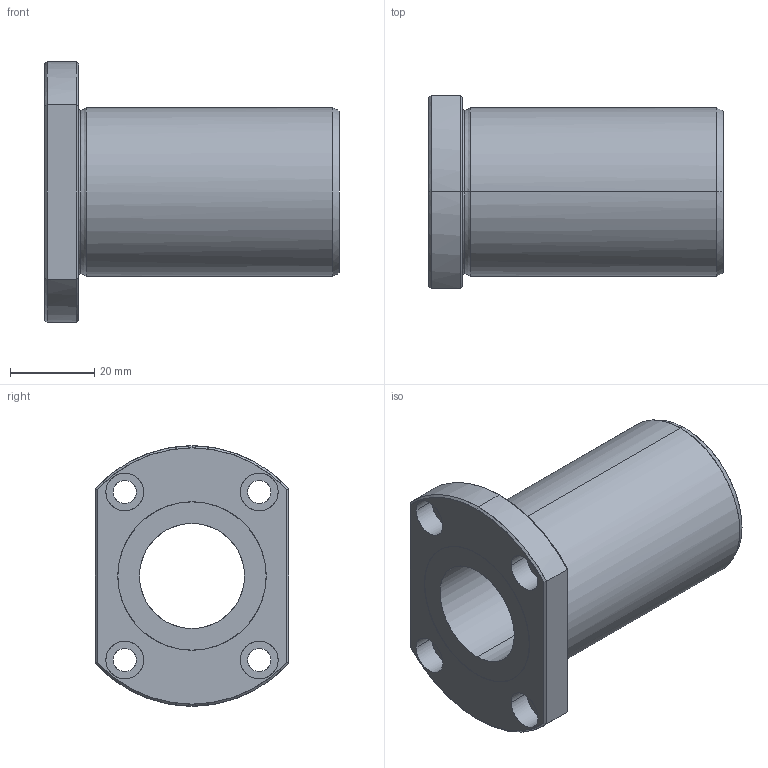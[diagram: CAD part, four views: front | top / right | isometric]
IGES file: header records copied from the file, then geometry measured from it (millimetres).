
Global section: file name: No Iges File Name specified; native system: AutoDesk Inventor R10; preprocessor: AutoDesk Inventor Iges Exporter R10; author: No Author specified; organization: No Organization specified; date: 20101216.173357; units: millimetre
Bounding box: 70 x 46 x 62 mm (x, y, z)
Surface area: 19413.1 mm2 (no closed solid volume)
Topology: 0 solids, 0 shells, 57 faces, 360 edges, 360 vertices
Faces by surface type: bspline 57
